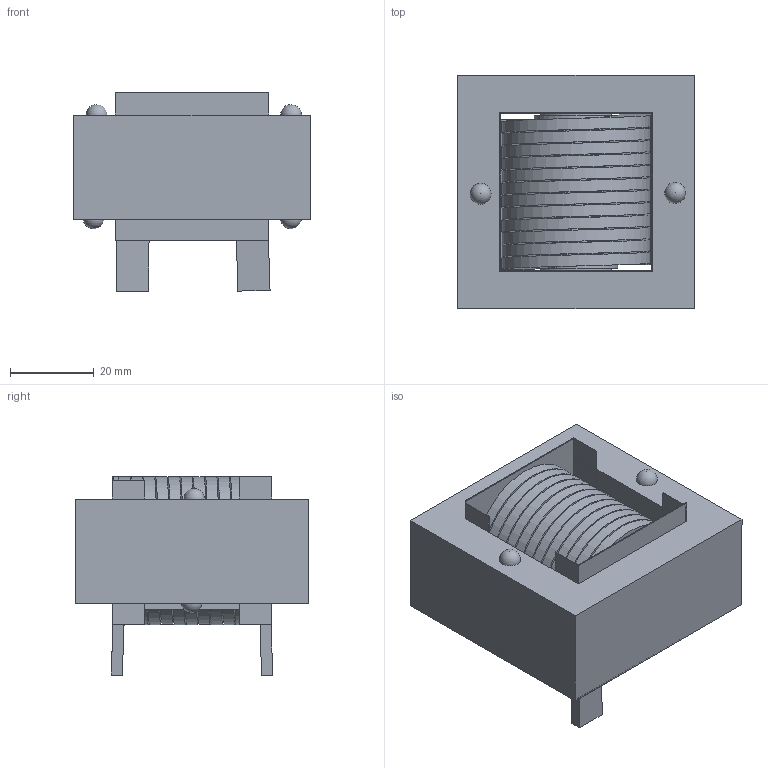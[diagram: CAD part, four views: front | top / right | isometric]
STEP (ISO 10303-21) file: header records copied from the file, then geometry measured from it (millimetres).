
FILE_DESCRIPTION (( 'STEP AP214' ), '1' );
FILE_NAME ('EK55246-260M-160AH.STEP', '2018-09-14T04:55:32', ( '' ), ( '' ), 'SwSTEP 2.0', 'SolidWorks 2017', '' );
FILE_SCHEMA (( 'AUTOMOTIVE_DESIGN' ));
Length unit declared in the file: inch
Products named in the file (1): EK55246-260M-160AH
Bounding box: 56.26 x 55.62 x 47.38 mm (x, y, z)
Volume: 76737.2 mm3; surface area: 41180.3 mm2
Topology: 1 solids, 1 shells, 98 faces, 281 edges, 178 vertices
Faces by surface type: plane 71, cylinder 19, bspline 4, sphere 4
Entity records: 7199 total; most frequent: CARTESIAN_POINT 3406, ORIENTED_EDGE 546, DIRECTION 471, EDGE_CURVE 273, VECTOR 193, LINE 193, VERTEX_POINT 174, AXIS2_PLACEMENT_3D 139
